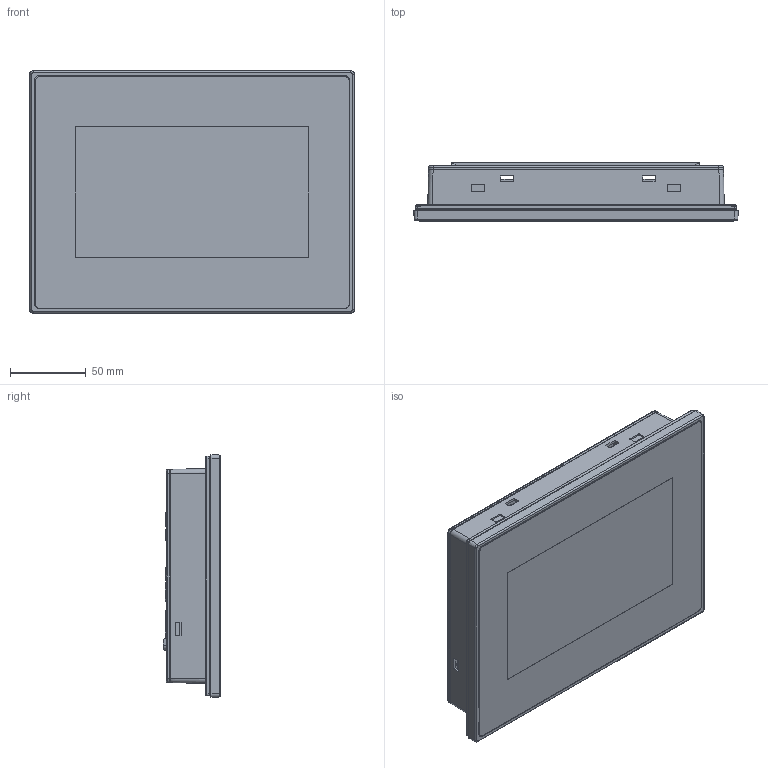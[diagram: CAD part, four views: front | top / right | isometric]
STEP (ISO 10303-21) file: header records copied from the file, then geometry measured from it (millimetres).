
FILE_DESCRIPTION((''),'2;1');
FILE_NAME('DOP-107SV','2022-09-08T14:57:48',('YY.CHENG'),(''),'CREO PARAMETRIC BY PTC INC, 2017110','CREO PARAMETRIC BY PTC INC, 2017110','');
FILE_SCHEMA(('CONFIG_CONTROL_DESIGN'));
Products named in the file (1): DOP-107SV
Bounding box: 214.56 x 38.33 x 160.56 mm (x, y, z)
Volume: 22374.3 mm3; surface area: 246561.1 mm2
Topology: 10 solids, 13 shells, 3822 faces, 10294 edges, 6652 vertices
Faces by surface type: plane 2570, cylinder 691, cone 212, extrusion 181, bspline 90, torus 76, sphere 2
Entity records: 129401 total; most frequent: CARTESIAN_POINT 35146, ORIENTED_EDGE 20518, DIRECTION 17812, EDGE_CURVE 10290, VECTOR 7580, LINE 7399, VERTEX_POINT 6652, AXIS2_PLACEMENT_3D 5116
